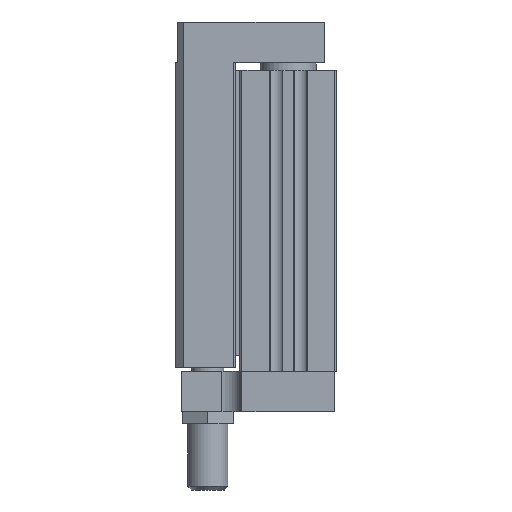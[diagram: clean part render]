
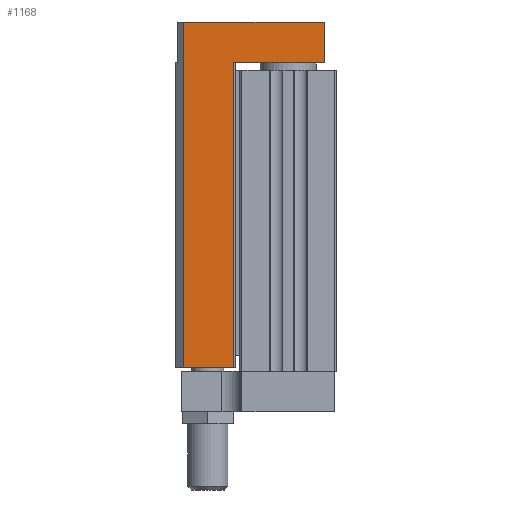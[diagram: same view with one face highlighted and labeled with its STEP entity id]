
A CAD part, left-side view. The second image highlights one B-rep face of the part: STEP entity #1168.
In plain terms, the highlighted planar face has unit normal (-1, 0, 0).
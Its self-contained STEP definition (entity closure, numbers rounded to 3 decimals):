
#1168 = ADVANCED_FACE( '', ( #2587 ), #2588, .T. );
#2587 = FACE_OUTER_BOUND( '', #4215, .T. );
#2588 = PLANE( '', #4216 );
#4215 = EDGE_LOOP( '', ( #7411, #7412, #7413, #7414, #7415, #7416 ) );
#4216 = AXIS2_PLACEMENT_3D( '', #7417, #7418, #7419 );
#7411 = ORIENTED_EDGE( '', *, *, #9386, .T. );
#7412 = ORIENTED_EDGE( '', *, *, #9834, .T. );
#7413 = ORIENTED_EDGE( '', *, *, #9176, .F. );
#7414 = ORIENTED_EDGE( '', *, *, #9229, .F. );
#7415 = ORIENTED_EDGE( '', *, *, #9736, .F. );
#7416 = ORIENTED_EDGE( '', *, *, #9898, .T. );
#7417 = CARTESIAN_POINT( '', ( -31., 38., -76. ) );
#7418 = DIRECTION( '', ( -1., 0., 0. ) );
#7419 = DIRECTION( '', ( 0., 0., 1. ) );
#9176 = EDGE_CURVE( '', #11001, #10992, #11003, .T. );
#9229 = EDGE_CURVE( '', #11088, #11001, #11090, .T. );
#9386 = EDGE_CURVE( '', #11344, #11341, #11345, .T. );
#9736 = EDGE_CURVE( '', #11870, #11088, #11872, .T. );
#9834 = EDGE_CURVE( '', #11341, #10992, #12004, .T. );
#9898 = EDGE_CURVE( '', #11870, #11344, #12090, .T. );
#10992 = VERTEX_POINT( '', #13519 );
#11001 = VERTEX_POINT( '', #13532 );
#11003 = LINE( '', #13535, #13536 );
#11088 = VERTEX_POINT( '', #13649 );
#11090 = LINE( '', #13652, #13653 );
#11341 = VERTEX_POINT( '', #13983 );
#11344 = VERTEX_POINT( '', #13987 );
#11345 = LINE( '', #13988, #13989 );
#11870 = VERTEX_POINT( '', #14708 );
#11872 = LINE( '', #14711, #14712 );
#12004 = LINE( '', #14896, #14897 );
#12090 = LINE( '', #15032, #15033 );
#13519 = CARTESIAN_POINT( '', ( -31., 3., 0. ) );
#13532 = CARTESIAN_POINT( '', ( -31., 3., 10. ) );
#13535 = CARTESIAN_POINT( '', ( -31., 3., 10. ) );
#13536 = VECTOR( '', #16060, 1000. );
#13649 = CARTESIAN_POINT( '', ( -31., 38., 10. ) );
#13652 = CARTESIAN_POINT( '', ( -31., 38., 10. ) );
#13653 = VECTOR( '', #16129, 1000. );
#13983 = CARTESIAN_POINT( '', ( -31., 25.5, 0. ) );
#13987 = CARTESIAN_POINT( '', ( -31., 25.5, -76. ) );
#13988 = CARTESIAN_POINT( '', ( -31., 25.5, -76. ) );
#13989 = VECTOR( '', #16318, 1000. );
#14708 = CARTESIAN_POINT( '', ( -31., 38., -76. ) );
#14711 = CARTESIAN_POINT( '', ( -31., 38., -76. ) );
#14712 = VECTOR( '', #16667, 1000. );
#14896 = CARTESIAN_POINT( '', ( -31., 38., 0. ) );
#14897 = VECTOR( '', #16774, 1000. );
#15032 = CARTESIAN_POINT( '', ( -31., 38., -76. ) );
#15033 = VECTOR( '', #16836, 1000. );
#16060 = DIRECTION( '', ( 0., 0., -1. ) );
#16129 = DIRECTION( '', ( 0., -1., 0. ) );
#16318 = DIRECTION( '', ( 0., 0., 1. ) );
#16667 = DIRECTION( '', ( 0., 0., 1. ) );
#16774 = DIRECTION( '', ( 0., -1., 0. ) );
#16836 = DIRECTION( '', ( 0., -1., 0. ) );
